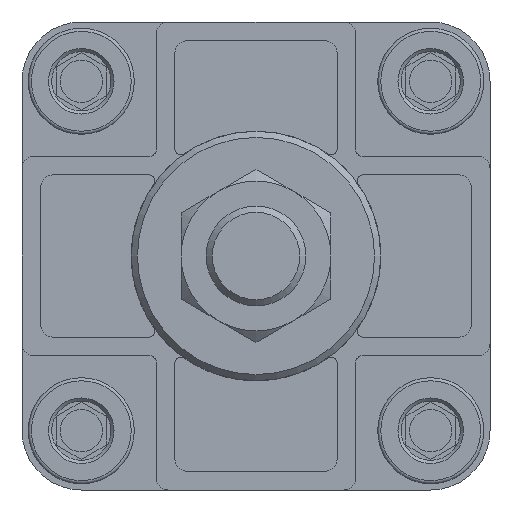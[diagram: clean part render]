
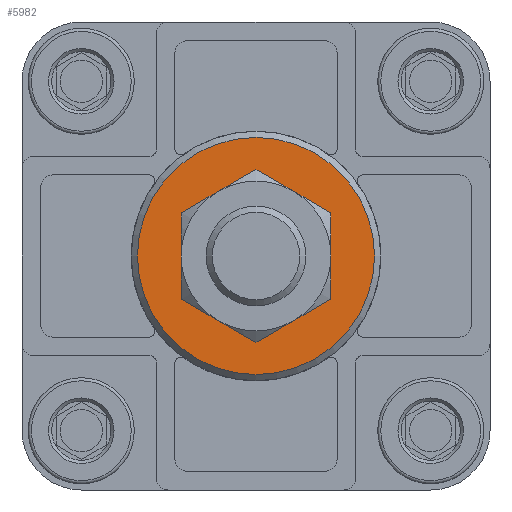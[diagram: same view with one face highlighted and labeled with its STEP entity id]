
A CAD part, front view. The second image highlights one B-rep face of the part: STEP entity #5982.
In plain terms, the highlighted planar face has unit normal (0, -1, 0).
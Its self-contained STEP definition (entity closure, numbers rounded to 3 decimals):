
#410=CIRCLE('',#6462,11.);
#411=CIRCLE('',#6463,19.);
#1366=ORIENTED_EDGE('',*,*,#2093,.T.);
#1367=ORIENTED_EDGE('',*,*,#2094,.T.);
#2093=EDGE_CURVE('',#2542,#2542,#410,.T.);
#2094=EDGE_CURVE('',#2543,#2543,#411,.F.);
#2542=VERTEX_POINT('',#8899);
#2543=VERTEX_POINT('',#8901);
#3516=EDGE_LOOP('',(#1366));
#3517=EDGE_LOOP('',(#1367));
#3864=FACE_BOUND('',#3516,.T.);
#3865=FACE_BOUND('',#3517,.T.);
#4071=PLANE('',#6461);
#5982=ADVANCED_FACE('',(#3864,#3865),#4071,.F.);
#6461=AXIS2_PLACEMENT_3D('',#8897,#7604,#7605);
#6462=AXIS2_PLACEMENT_3D('',#8898,#7606,#7607);
#6463=AXIS2_PLACEMENT_3D('',#8900,#7608,#7609);
#7604=DIRECTION('',(0.,1.,0.));
#7605=DIRECTION('',(0.,0.,1.));
#7606=DIRECTION('',(0.,1.,0.));
#7607=DIRECTION('',(0.,0.,1.));
#7608=DIRECTION('',(0.,1.,0.));
#7609=DIRECTION('',(0.,0.,1.));
#8897=CARTESIAN_POINT('',(0.,-48.5,0.));
#8898=CARTESIAN_POINT('',(0.,-48.5,0.));
#8899=CARTESIAN_POINT('',(0.,-48.5,11.));
#8900=CARTESIAN_POINT('',(0.,-48.5,0.));
#8901=CARTESIAN_POINT('',(0.,-48.5,19.));
